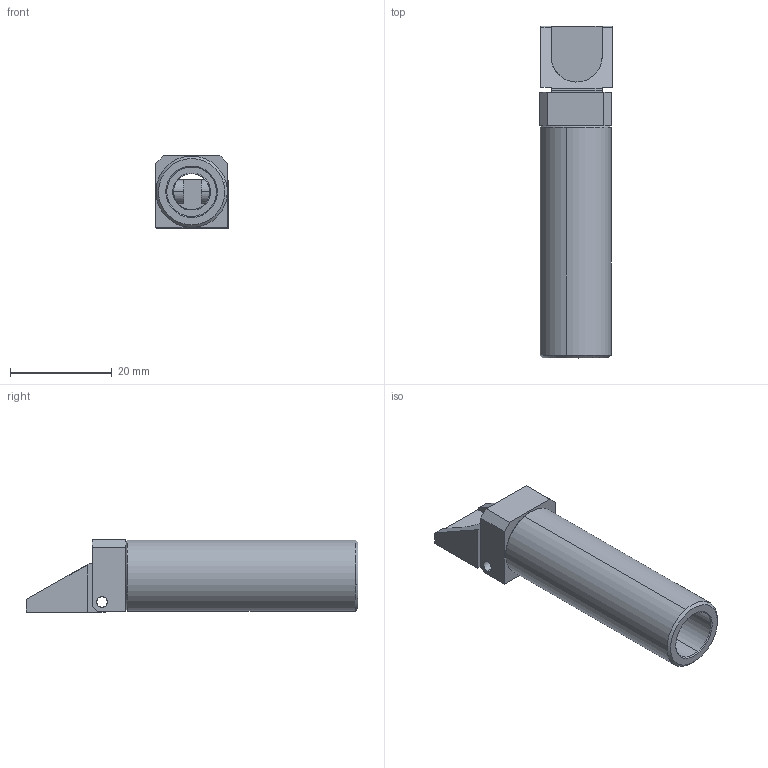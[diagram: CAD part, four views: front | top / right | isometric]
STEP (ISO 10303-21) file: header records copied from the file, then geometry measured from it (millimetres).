
FILE_DESCRIPTION (( 'STEP AP214' ), '1' );
FILE_NAME ('CA.GFI.1495.E.18.STEP', '2018-01-26T10:11:47', ( '' ), ( '' ), 'SwSTEP 2.0', 'SolidWorks 2017', '' );
FILE_SCHEMA (( 'AUTOMOTIVE_DESIGN' ));
Length unit declared in the file: millimetre
Products named in the file (4): GFI14.95.E.06; GFI14.95.E.05; GFI14.95.E.02.18; CA.GFI.1495.E.18
Assembly tree (3 placements, depth 2):
  CA.GFI.1495.E.18
    GFI14.95.E.02.18
    GFI14.95.E.05
    GFI14.95.E.06
Bounding box: 14.25 x 65.1 x 14.2 mm (x, y, z)
Volume: 3999.2 mm3; surface area: 6413 mm2
Topology: 3 solids, 3 shells, 93 faces, 245 edges, 162 vertices
Faces by surface type: plane 48, cylinder 35, cone 10
Entity records: 3070 total; most frequent: DIRECTION 523, CARTESIAN_POINT 521, ORIENTED_EDGE 490, EDGE_CURVE 245, AXIS2_PLACEMENT_3D 184, VERTEX_POINT 162, LINE 155, VECTOR 155
